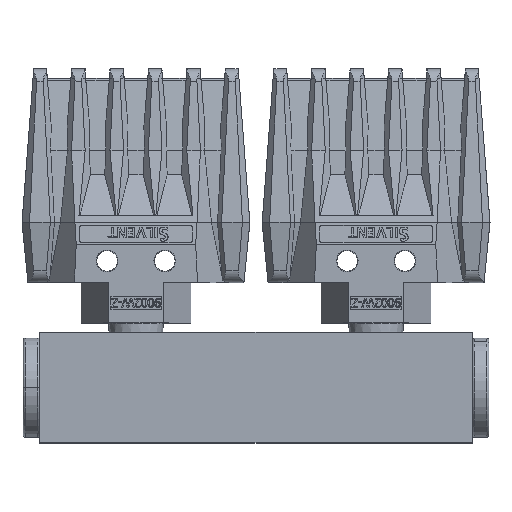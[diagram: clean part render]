
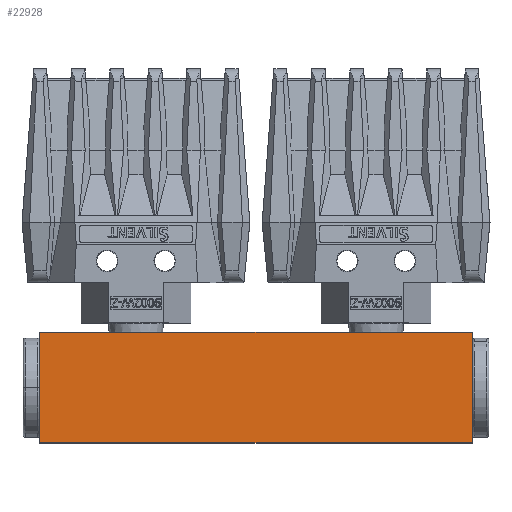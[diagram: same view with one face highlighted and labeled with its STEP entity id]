
A CAD part, top view. The second image highlights one B-rep face of the part: STEP entity #22928.
In plain terms, the highlighted planar face has unit normal (0, 0, 1).
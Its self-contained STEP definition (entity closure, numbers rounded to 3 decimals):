
#486 = LINE ( 'NONE', #18047, #7277 ) ;
#903 = EDGE_CURVE ( 'NONE', #6056, #8880, #13162, .T. ) ;
#1323 = PLANE ( 'NONE',  #15357 ) ;
#1832 = ORIENTED_EDGE ( 'NONE', *, *, #4639, .F. ) ;
#2088 = CARTESIAN_POINT ( 'NONE',  ( -45., -11.5, 11.5 ) ) ;
#2277 = DIRECTION ( 'NONE',  ( 0., -1., 0. ) ) ;
#2439 = ORIENTED_EDGE ( 'NONE', *, *, #903, .T. ) ;
#3544 = CARTESIAN_POINT ( 'NONE',  ( 45., 11.5, 11.5 ) ) ;
#3718 = FACE_OUTER_BOUND ( 'NONE', #15639, .T. ) ;
#4570 = ORIENTED_EDGE ( 'NONE', *, *, #8688, .F. ) ;
#4639 = EDGE_CURVE ( 'NONE', #6056, #17832, #486, .T. ) ;
#5112 = DIRECTION ( 'NONE',  ( 0., 1., 0. ) ) ;
#6056 = VERTEX_POINT ( 'NONE', #16384 ) ;
#7277 = VECTOR ( 'NONE', #23847, 1000. ) ;
#8688 = EDGE_CURVE ( 'NONE', #17832, #9621, #20272, .T. ) ;
#8880 = VERTEX_POINT ( 'NONE', #11431 ) ;
#9621 = VERTEX_POINT ( 'NONE', #2088 ) ;
#11259 = DIRECTION ( 'NONE',  ( -1., 0., 0. ) ) ;
#11431 = CARTESIAN_POINT ( 'NONE',  ( -45., 11.5, 11.5 ) ) ;
#11937 = CARTESIAN_POINT ( 'NONE',  ( 45., -11.5, 11.5 ) ) ;
#12472 = VECTOR ( 'NONE', #11259, 1000. ) ;
#13162 = LINE ( 'NONE', #3544, #12472 ) ;
#14860 = CARTESIAN_POINT ( 'NONE',  ( 45., 11.5, 11.5 ) ) ;
#15357 = AXIS2_PLACEMENT_3D ( 'NONE', #14860, #18519, #5112 ) ;
#15561 = CARTESIAN_POINT ( 'NONE',  ( -45., 11.5, 11.5 ) ) ;
#15639 = EDGE_LOOP ( 'NONE', ( #24945, #4570, #1832, #2439 ) ) ;
#16384 = CARTESIAN_POINT ( 'NONE',  ( 45., 11.5, 11.5 ) ) ;
#17351 = VECTOR ( 'NONE', #2277, 1000. ) ;
#17832 = VERTEX_POINT ( 'NONE', #11937 ) ;
#18047 = CARTESIAN_POINT ( 'NONE',  ( 45., 11.5, 11.5 ) ) ;
#18247 = CARTESIAN_POINT ( 'NONE',  ( 45., -11.5, 11.5 ) ) ;
#18285 = VECTOR ( 'NONE', #20148, 1000. ) ;
#18519 = DIRECTION ( 'NONE',  ( 0., 0., -1. ) ) ;
#20148 = DIRECTION ( 'NONE',  ( -1., 0., 0. ) ) ;
#20272 = LINE ( 'NONE', #18247, #18285 ) ;
#21484 = LINE ( 'NONE', #15561, #17351 ) ;
#22293 = EDGE_CURVE ( 'NONE', #8880, #9621, #21484, .T. ) ;
#22928 = ADVANCED_FACE ( 'NONE', ( #3718 ), #1323, .F. ) ;
#23847 = DIRECTION ( 'NONE',  ( 0., -1., 0. ) ) ;
#24945 = ORIENTED_EDGE ( 'NONE', *, *, #22293, .T. ) ;
